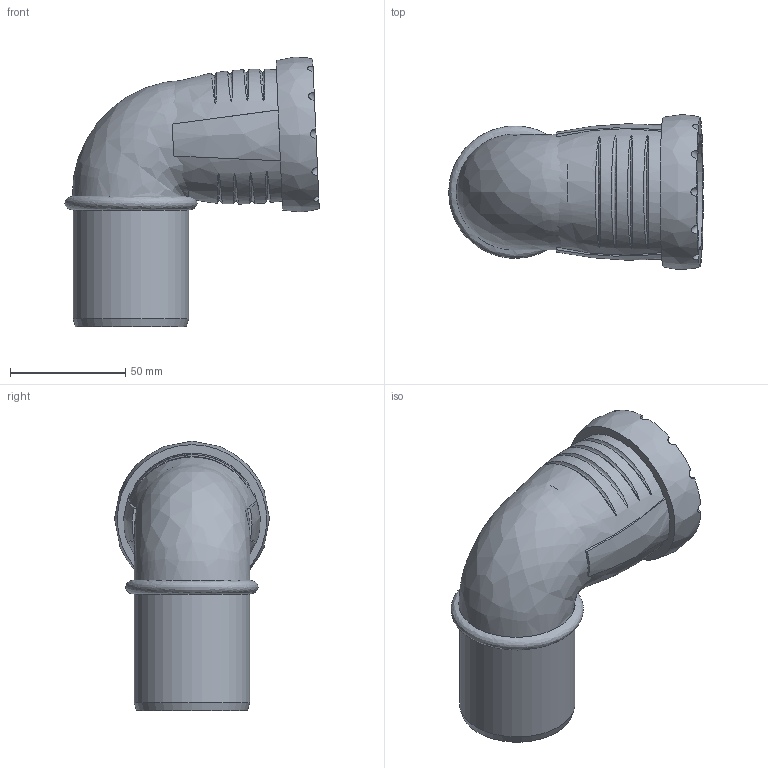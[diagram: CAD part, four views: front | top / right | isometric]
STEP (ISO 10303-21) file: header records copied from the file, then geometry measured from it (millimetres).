
FILE_DESCRIPTION(/* description */ (''),/* implementation_level */ '2;1');
FILE_NAME(/* name */ 'H:\Geberit-Teile\Export\Bogen_TEST\stp\393224.stp',/* time_stamp */ '2017-02-14T10:05:36+01:00',/* author */ ('seihe2'),/* organization */ (''),/* preprocessor_version */ 'ST-DEVELOPER v15.2',/* originating_system */ 'Autodesk Inventor 2014',/* authorisation */ '');
FILE_SCHEMA (('AUTOMOTIVE_DESIGN { 1 0 10303 214 3 1 1 }'));
Length unit declared in the file: millimetre
Products named in the file (1): 393224
Bounding box: 110.23 x 67.08 x 116.79 mm (x, y, z)
Volume: 163742.4 mm3; surface area: 56990 mm2
Topology: 2 solids, 2 shells, 63 faces, 170 edges, 119 vertices
Faces by surface type: bspline 32, cylinder 19, plane 10, cone 2
Full cylindrical faces by diameter (mm): 36 x1, 44.15 x1, 50.15 x1, 50.7 x1, 51 x1, 60.1 x1
Entity records: 4709 total; most frequent: CARTESIAN_POINT 3255, ORIENTED_EDGE 322, DIRECTION 208, EDGE_CURVE 161, VERTEX_POINT 118, AXIS2_PLACEMENT_3D 102, EDGE_LOOP 85, B_SPLINE_CURVE_WITH_KNOTS 85
